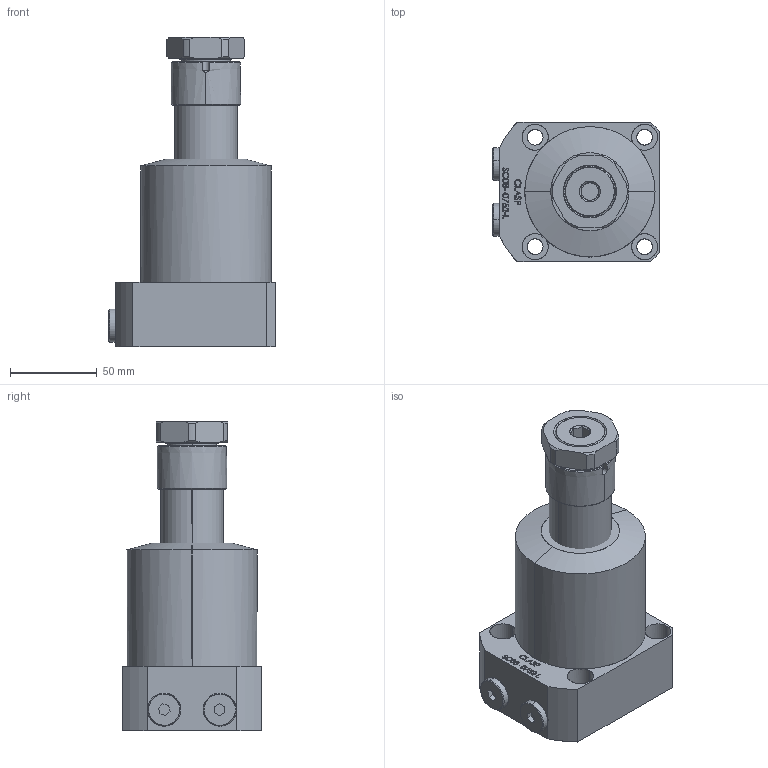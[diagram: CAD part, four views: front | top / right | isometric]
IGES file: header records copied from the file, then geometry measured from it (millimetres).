
Start section: SolidWorks IGES file using analytic representation for surfaces
Global section: file name: D:\karuppas\Clasp\3D model\SWING CYLINDER\bottom mounting swing cylinder\SC08-0752-L\SC08-0752-L.IGS; native system: SolidWorks 2017; preprocessor: SolidWorks 2017; author: pc; date: 220708.225105; units: millimetre
Bounding box: 96 x 80 x 178 mm (x, y, z)
Surface area: 73779.8 mm2 (no closed solid volume)
Topology: 0 solids, 0 shells, 373 faces, 6045 edges, 6044 vertices
Faces by surface type: bspline 268, revolution 105
